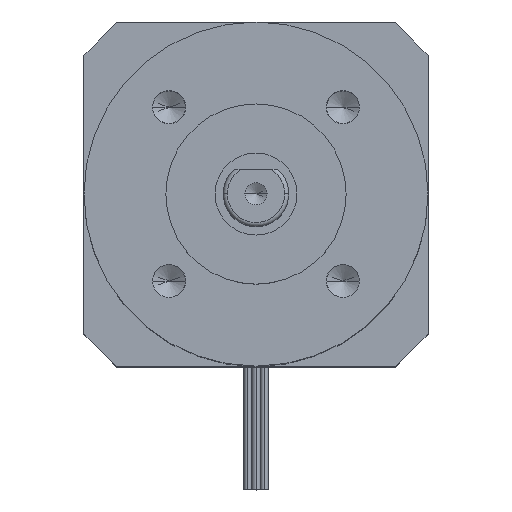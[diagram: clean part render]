
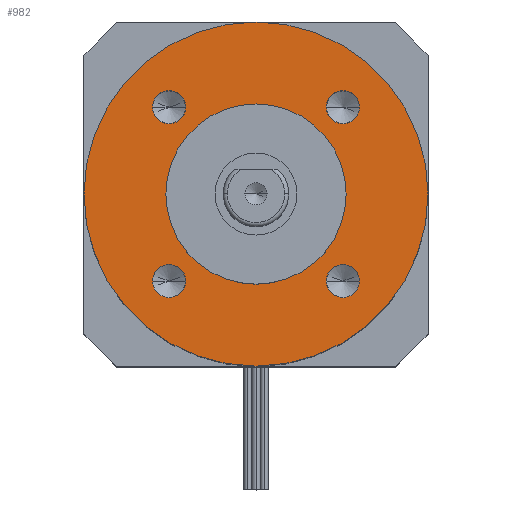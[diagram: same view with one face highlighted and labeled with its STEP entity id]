
A CAD part, top view. The second image highlights one B-rep face of the part: STEP entity #982.
In plain terms, the highlighted planar face has unit normal (0, 0, 1).
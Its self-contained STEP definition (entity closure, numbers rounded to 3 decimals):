
#2 = EDGE_CURVE ( 'NONE', #1273, #3106, #1459, .T. ) ;
#57 = CARTESIAN_POINT ( 'NONE',  ( 12.632, 10.607, 0. ) ) ;
#70 = ORIENTED_EDGE ( 'NONE', *, *, #431, .F. ) ;
#128 = CARTESIAN_POINT ( 'NONE',  ( 10.607, 10.607, 0. ) ) ;
#182 = ORIENTED_EDGE ( 'NONE', *, *, #2292, .F. ) ;
#217 = PLANE ( 'NONE',  #966 ) ;
#241 = CIRCLE ( 'NONE', #1854, 21. ) ;
#260 = VERTEX_POINT ( 'NONE', #2313 ) ;
#283 = CARTESIAN_POINT ( 'NONE',  ( 21., 0., 0. ) ) ;
#286 = DIRECTION ( 'NONE',  ( -1., 0., 0. ) ) ;
#417 = FACE_BOUND ( 'NONE', #2890, .T. ) ;
#431 = EDGE_CURVE ( 'NONE', #670, #2466, #241, .T. ) ;
#438 = CARTESIAN_POINT ( 'NONE',  ( 12.632, -10.607, 0. ) ) ;
#443 = ORIENTED_EDGE ( 'NONE', *, *, #2061, .F. ) ;
#468 = VERTEX_POINT ( 'NONE', #1476 ) ;
#514 = CARTESIAN_POINT ( 'NONE',  ( -10.607, 10.607, 0. ) ) ;
#667 = ORIENTED_EDGE ( 'NONE', *, *, #2934, .F. ) ;
#670 = VERTEX_POINT ( 'NONE', #2744 ) ;
#734 = DIRECTION ( 'NONE',  ( 1., 0., 0. ) ) ;
#768 = CARTESIAN_POINT ( 'NONE',  ( 0., 0., 0. ) ) ;
#785 = CARTESIAN_POINT ( 'NONE',  ( 11., 0., 0. ) ) ;
#835 = CIRCLE ( 'NONE', #1704, 2.025 ) ;
#842 = CARTESIAN_POINT ( 'NONE',  ( -10.607, -10.607, 0. ) ) ;
#853 = ORIENTED_EDGE ( 'NONE', *, *, #1437, .F. ) ;
#862 = DIRECTION ( 'NONE',  ( 1., 0., 0. ) ) ;
#879 = ORIENTED_EDGE ( 'NONE', *, *, #2, .F. ) ;
#890 = CARTESIAN_POINT ( 'NONE',  ( -10.607, -10.607, 0. ) ) ;
#952 = DIRECTION ( 'NONE',  ( 0., 0., -1. ) ) ;
#966 = AXIS2_PLACEMENT_3D ( 'NONE', #2878, #952, #2392 ) ;
#982 = ADVANCED_FACE ( 'NONE', ( #1114, #2410, #417, #1486, #2156, #2641 ), #217, .F. ) ;
#985 = CIRCLE ( 'NONE', #1340, 2.025 ) ;
#1028 = EDGE_LOOP ( 'NONE', ( #2556, #879 ) ) ;
#1031 = CIRCLE ( 'NONE', #2660, 2.025 ) ;
#1073 = ORIENTED_EDGE ( 'NONE', *, *, #1308, .F. ) ;
#1081 = CARTESIAN_POINT ( 'NONE',  ( -8.582, -10.607, 0. ) ) ;
#1114 = FACE_BOUND ( 'NONE', #1378, .T. ) ;
#1130 = CARTESIAN_POINT ( 'NONE',  ( 10.607, -10.607, 0. ) ) ;
#1134 = AXIS2_PLACEMENT_3D ( 'NONE', #514, #2434, #1507 ) ;
#1136 = EDGE_LOOP ( 'NONE', ( #2989, #70 ) ) ;
#1139 = ORIENTED_EDGE ( 'NONE', *, *, #2253, .F. ) ;
#1145 = VERTEX_POINT ( 'NONE', #785 ) ;
#1200 = DIRECTION ( 'NONE',  ( 0., 0., 1. ) ) ;
#1211 = VERTEX_POINT ( 'NONE', #1502 ) ;
#1213 = CARTESIAN_POINT ( 'NONE',  ( 10.607, -10.607, 0. ) ) ;
#1221 = DIRECTION ( 'NONE',  ( 0., 0., -1. ) ) ;
#1242 = EDGE_LOOP ( 'NONE', ( #2388, #1073 ) ) ;
#1249 = CARTESIAN_POINT ( 'NONE',  ( 0., 0., 0. ) ) ;
#1273 = VERTEX_POINT ( 'NONE', #2997 ) ;
#1301 = DIRECTION ( 'NONE',  ( 1., 0., 0. ) ) ;
#1308 = EDGE_CURVE ( 'NONE', #468, #1901, #835, .T. ) ;
#1340 = AXIS2_PLACEMENT_3D ( 'NONE', #1213, #1926, #734 ) ;
#1359 = AXIS2_PLACEMENT_3D ( 'NONE', #2446, #2458, #1543 ) ;
#1378 = EDGE_LOOP ( 'NONE', ( #1791, #1139 ) ) ;
#1385 = DIRECTION ( 'NONE',  ( 0., 0., 1. ) ) ;
#1437 = EDGE_CURVE ( 'NONE', #1626, #2333, #2221, .T. ) ;
#1459 = CIRCLE ( 'NONE', #1359, 2.025 ) ;
#1460 = CARTESIAN_POINT ( 'NONE',  ( -12.632, 10.607, 0. ) ) ;
#1476 = CARTESIAN_POINT ( 'NONE',  ( -12.632, -10.607, 0. ) ) ;
#1486 = FACE_BOUND ( 'NONE', #1242, .T. ) ;
#1496 = DIRECTION ( 'NONE',  ( 1., 0., 0. ) ) ;
#1502 = CARTESIAN_POINT ( 'NONE',  ( -8.582, 10.607, 0. ) ) ;
#1507 = DIRECTION ( 'NONE',  ( 1., 0., 0. ) ) ;
#1523 = DIRECTION ( 'NONE',  ( 0., 0., 1. ) ) ;
#1543 = DIRECTION ( 'NONE',  ( 1., 0., 0. ) ) ;
#1559 = CARTESIAN_POINT ( 'NONE',  ( 0., 0., 0. ) ) ;
#1626 = VERTEX_POINT ( 'NONE', #1645 ) ;
#1645 = CARTESIAN_POINT ( 'NONE',  ( 8.582, -10.607, 0. ) ) ;
#1678 = CARTESIAN_POINT ( 'NONE',  ( -10.607, 10.607, 0. ) ) ;
#1704 = AXIS2_PLACEMENT_3D ( 'NONE', #842, #1523, #2038 ) ;
#1718 = AXIS2_PLACEMENT_3D ( 'NONE', #1559, #2731, #1301 ) ;
#1721 = AXIS2_PLACEMENT_3D ( 'NONE', #890, #1822, #2337 ) ;
#1725 = EDGE_CURVE ( 'NONE', #2466, #670, #2002, .T. ) ;
#1729 = DIRECTION ( 'NONE',  ( 0., 0., 1. ) ) ;
#1763 = AXIS2_PLACEMENT_3D ( 'NONE', #1130, #3006, #2088 ) ;
#1791 = ORIENTED_EDGE ( 'NONE', *, *, #2438, .F. ) ;
#1798 = EDGE_CURVE ( 'NONE', #3106, #1273, #1031, .T. ) ;
#1822 = DIRECTION ( 'NONE',  ( 0., 0., 1. ) ) ;
#1854 = AXIS2_PLACEMENT_3D ( 'NONE', #1249, #1221, #1496 ) ;
#1873 = AXIS2_PLACEMENT_3D ( 'NONE', #768, #1729, #286 ) ;
#1896 = DIRECTION ( 'NONE',  ( 1., 0., 0. ) ) ;
#1901 = VERTEX_POINT ( 'NONE', #1081 ) ;
#1919 = AXIS2_PLACEMENT_3D ( 'NONE', #1943, #2425, #1922 ) ;
#1922 = DIRECTION ( 'NONE',  ( -1., 0., 0. ) ) ;
#1926 = DIRECTION ( 'NONE',  ( 0., 0., 1. ) ) ;
#1943 = CARTESIAN_POINT ( 'NONE',  ( 0., 0., 0. ) ) ;
#2002 = CIRCLE ( 'NONE', #1718, 21. ) ;
#2038 = DIRECTION ( 'NONE',  ( 1., 0., 0. ) ) ;
#2061 = EDGE_CURVE ( 'NONE', #1145, #260, #2222, .T. ) ;
#2088 = DIRECTION ( 'NONE',  ( 1., 0., 0. ) ) ;
#2156 = FACE_OUTER_BOUND ( 'NONE', #1136, .T. ) ;
#2161 = CIRCLE ( 'NONE', #1721, 2.025 ) ;
#2221 = CIRCLE ( 'NONE', #1763, 2.025 ) ;
#2222 = CIRCLE ( 'NONE', #1873, 11. ) ;
#2253 = EDGE_CURVE ( 'NONE', #2320, #1211, #2896, .T. ) ;
#2257 = CIRCLE ( 'NONE', #1134, 2.025 ) ;
#2292 = EDGE_CURVE ( 'NONE', #2333, #1626, #985, .T. ) ;
#2313 = CARTESIAN_POINT ( 'NONE',  ( -11., 0., 0. ) ) ;
#2320 = VERTEX_POINT ( 'NONE', #1460 ) ;
#2333 = VERTEX_POINT ( 'NONE', #438 ) ;
#2337 = DIRECTION ( 'NONE',  ( 1., 0., 0. ) ) ;
#2343 = EDGE_LOOP ( 'NONE', ( #667, #443 ) ) ;
#2388 = ORIENTED_EDGE ( 'NONE', *, *, #2778, .F. ) ;
#2392 = DIRECTION ( 'NONE',  ( -1., 0., 0. ) ) ;
#2410 = FACE_BOUND ( 'NONE', #1028, .T. ) ;
#2425 = DIRECTION ( 'NONE',  ( 0., 0., 1. ) ) ;
#2434 = DIRECTION ( 'NONE',  ( 0., 0., 1. ) ) ;
#2438 = EDGE_CURVE ( 'NONE', #1211, #2320, #2257, .T. ) ;
#2446 = CARTESIAN_POINT ( 'NONE',  ( 10.607, 10.607, 0. ) ) ;
#2458 = DIRECTION ( 'NONE',  ( 0., 0., 1. ) ) ;
#2466 = VERTEX_POINT ( 'NONE', #283 ) ;
#2467 = AXIS2_PLACEMENT_3D ( 'NONE', #1678, #1200, #1896 ) ;
#2556 = ORIENTED_EDGE ( 'NONE', *, *, #1798, .F. ) ;
#2641 = FACE_BOUND ( 'NONE', #2343, .T. ) ;
#2660 = AXIS2_PLACEMENT_3D ( 'NONE', #128, #1385, #862 ) ;
#2731 = DIRECTION ( 'NONE',  ( 0., 0., -1. ) ) ;
#2744 = CARTESIAN_POINT ( 'NONE',  ( -21., 0., 0. ) ) ;
#2778 = EDGE_CURVE ( 'NONE', #1901, #468, #2161, .T. ) ;
#2878 = CARTESIAN_POINT ( 'NONE',  ( -21., -21., 0. ) ) ;
#2890 = EDGE_LOOP ( 'NONE', ( #182, #853 ) ) ;
#2896 = CIRCLE ( 'NONE', #2467, 2.025 ) ;
#2934 = EDGE_CURVE ( 'NONE', #260, #1145, #3055, .T. ) ;
#2989 = ORIENTED_EDGE ( 'NONE', *, *, #1725, .F. ) ;
#2997 = CARTESIAN_POINT ( 'NONE',  ( 8.582, 10.607, 0. ) ) ;
#3006 = DIRECTION ( 'NONE',  ( 0., 0., 1. ) ) ;
#3055 = CIRCLE ( 'NONE', #1919, 11. ) ;
#3106 = VERTEX_POINT ( 'NONE', #57 ) ;
